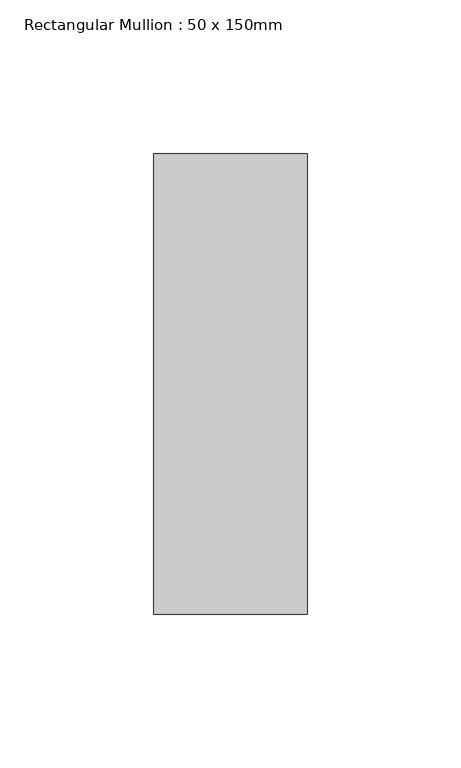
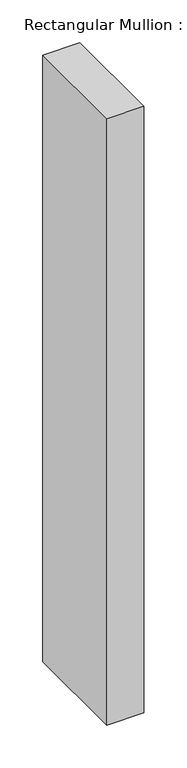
"""IFC4 building model written with IfcOpenShell, lengths in millimetres: member geometry, Rectangular Mullion : 50 x 150mm."""

from ifc_helpers import new_model, si_unit, frame, origin, place, context, project, spatial, polyline, outline, extrude, source, transform, mapped, element, save


def rectangular_mullion_50_x_150mm_8db32958(model_context):
    return source(origin(), model_context, "Body", "SweptSolid", [
        extrude(outline(polyline([(0.0, 75.0), (0.0, -75.0), (-50.0, -75.0), (-50.0, 75.0), (0.0, 75.0)])), frame((0.0, 0.0, -865.592625), z_axis=(0.0, 0.0, 1.0), x_axis=(1.0, 0.0, 0.0)), (0.0, 0.0, 1.0), 865.592625),
    ])


if __name__ == "__main__":
    model = new_model("IFC4")
    model_context = context("Model", 3, world=origin())
    ifc_project = project(units=[si_unit("LENGTHUNIT", "METRE", prefix="MILLI")], contexts=[model_context])
    site = spatial("IfcSite", under=ifc_project)
    building = spatial("IfcBuilding", under=site)
    placement = place(None, origin())
    rectangular_mullion_50_x_150mm_shape = rectangular_mullion_50_x_150mm_8db32958(model_context)
    element("IfcMember", 1, ObjectType="Rectangular Mullion : 50 x 150mm", at=placement, inside=building, context=model_context, shape_type="MappedRepresentation", body=[
        mapped(rectangular_mullion_50_x_150mm_shape, transform((0.0, 0.0, 0.0), x_axis=(1.0, 0.0, 0.0), y_axis=(0.0, 1.0, 0.0), z_axis=(0.0, 0.0, 1.0))),
    ])
    save(model, "model.ifc")
